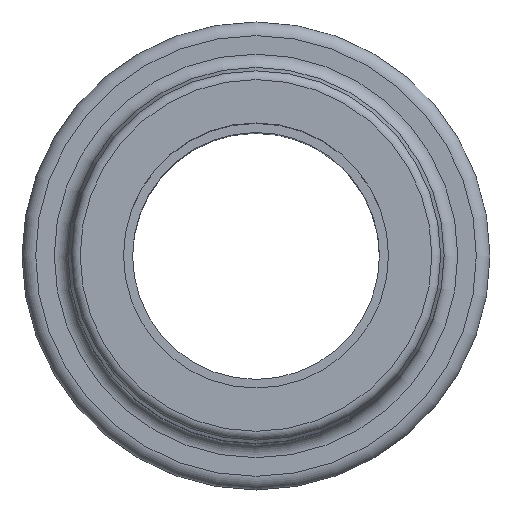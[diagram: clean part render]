
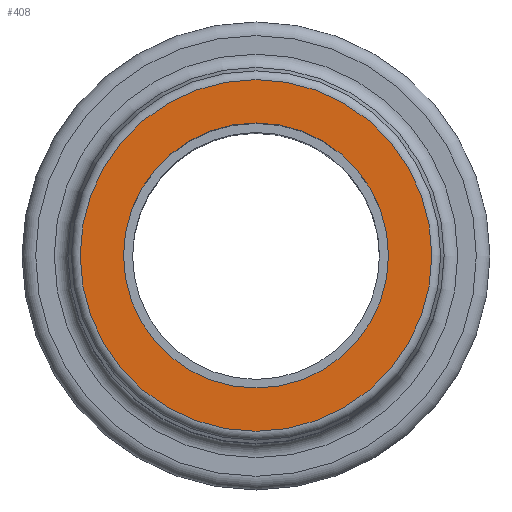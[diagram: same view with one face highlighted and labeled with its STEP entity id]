
A CAD part, top view. The second image highlights one B-rep face of the part: STEP entity #408.
In plain terms, the highlighted planar face has unit normal (0, 0, 1).
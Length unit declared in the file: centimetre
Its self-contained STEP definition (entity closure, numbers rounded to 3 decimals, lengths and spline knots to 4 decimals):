
#122=PLANE('',#462);
#147=VERTEX_POINT('',#639);
#149=VERTEX_POINT('',#645);
#176=CIRCLE('',#459,2.9493);
#178=CIRCLE('',#463,2.2225);
#205=EDGE_CURVE('',#147,#147,#176,.T.);
#207=EDGE_CURVE('',#149,#149,#178,.T.);
#258=ORIENTED_EDGE('',*,*,#207,.F.);
#259=ORIENTED_EDGE('',*,*,#205,.F.);
#316=EDGE_LOOP('',(#258));
#317=EDGE_LOOP('',(#259));
#374=FACE_BOUND('',#316,.T.);
#375=FACE_BOUND('',#317,.T.);
#408=ADVANCED_FACE('',(#374,#375),#122,.T.);
#459=AXIS2_PLACEMENT_3D('',#638,#549,#550);
#462=AXIS2_PLACEMENT_3D('',#643,#555,$);
#463=AXIS2_PLACEMENT_3D('',#644,#556,#557);
#549=DIRECTION('',(0.,0.,-1.));
#550=DIRECTION('',(0.,-2.949,0.));
#555=DIRECTION('',(0.,0.,1.));
#556=DIRECTION('',(0.,0.,1.));
#557=DIRECTION('',(0.,2.223,0.));
#638=CARTESIAN_POINT('',(0.,0.,0.));
#639=CARTESIAN_POINT('',(0.,2.9493,0.));
#643=CARTESIAN_POINT('',(0.,2.6444,0.));
#644=CARTESIAN_POINT('',(0.,0.,0.));
#645=CARTESIAN_POINT('',(0.,2.2225,0.));
